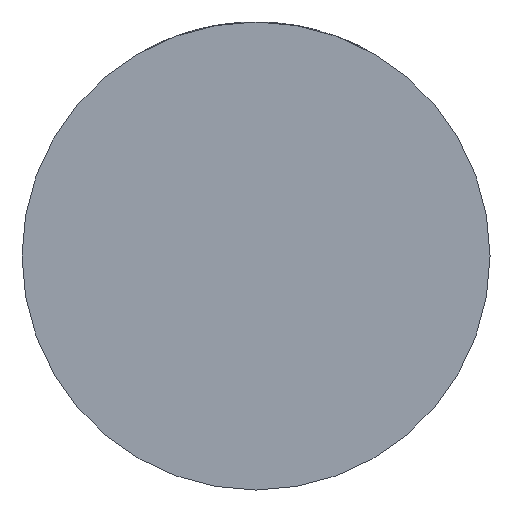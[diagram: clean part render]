
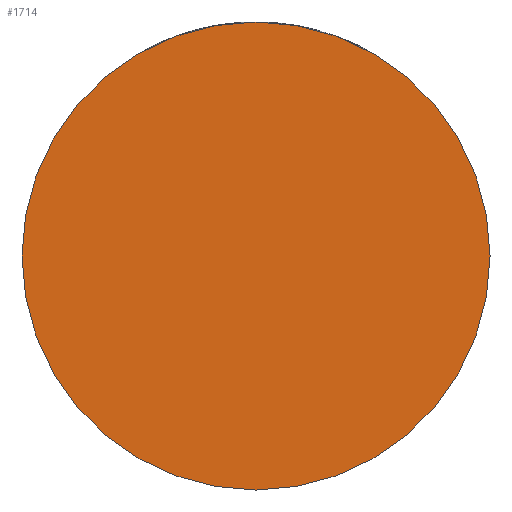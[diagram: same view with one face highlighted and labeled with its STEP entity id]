
A CAD part, front view. The second image highlights one B-rep face of the part: STEP entity #1714.
In plain terms, the highlighted planar face has unit normal (0, -1, 0).
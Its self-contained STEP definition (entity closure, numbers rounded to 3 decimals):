
#306 = EDGE_CURVE ( 'NONE', #2351, #3159, #1087, .T. ) ;
#593 = CARTESIAN_POINT ( 'NONE',  ( 0., -36., 0. ) ) ;
#725 = AXIS2_PLACEMENT_3D ( 'NONE', #593, #1296, #1231 ) ;
#731 = CIRCLE ( 'NONE', #3344, 39. ) ;
#1036 = DIRECTION ( 'NONE',  ( 0., -1., 0. ) ) ;
#1087 = CIRCLE ( 'NONE', #725, 39. ) ;
#1181 = DIRECTION ( 'NONE',  ( 1., 0., 0. ) ) ;
#1231 = DIRECTION ( 'NONE',  ( 1., 0., 0. ) ) ;
#1296 = DIRECTION ( 'NONE',  ( 0., -1., 0. ) ) ;
#1485 = CARTESIAN_POINT ( 'NONE',  ( -39., -36., 0. ) ) ;
#1516 = EDGE_CURVE ( 'NONE', #3159, #2351, #731, .T. ) ;
#1714 = ADVANCED_FACE ( 'NONE', ( #2159 ), #3541, .T. ) ;
#2159 = FACE_OUTER_BOUND ( 'NONE', #4187, .T. ) ;
#2224 = CARTESIAN_POINT ( 'NONE',  ( 0., -36., 0. ) ) ;
#2351 = VERTEX_POINT ( 'NONE', #1485 ) ;
#2951 = CARTESIAN_POINT ( 'NONE',  ( 39., -36., 0. ) ) ;
#3015 = ORIENTED_EDGE ( 'NONE', *, *, #1516, .T. ) ;
#3159 = VERTEX_POINT ( 'NONE', #2951 ) ;
#3344 = AXIS2_PLACEMENT_3D ( 'NONE', #4451, #1036, #4138 ) ;
#3541 = PLANE ( 'NONE',  #3785 ) ;
#3615 = DIRECTION ( 'NONE',  ( 0., -1., 0. ) ) ;
#3785 = AXIS2_PLACEMENT_3D ( 'NONE', #2224, #3615, #1181 ) ;
#4084 = ORIENTED_EDGE ( 'NONE', *, *, #306, .T. ) ;
#4138 = DIRECTION ( 'NONE',  ( 1., 0., 0. ) ) ;
#4187 = EDGE_LOOP ( 'NONE', ( #4084, #3015 ) ) ;
#4451 = CARTESIAN_POINT ( 'NONE',  ( 0., -36., 0. ) ) ;
